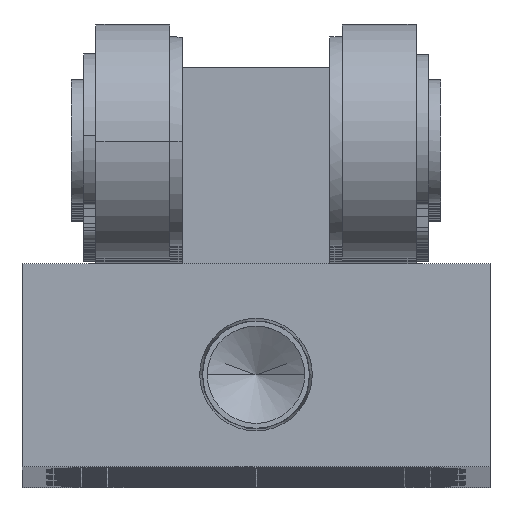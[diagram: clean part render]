
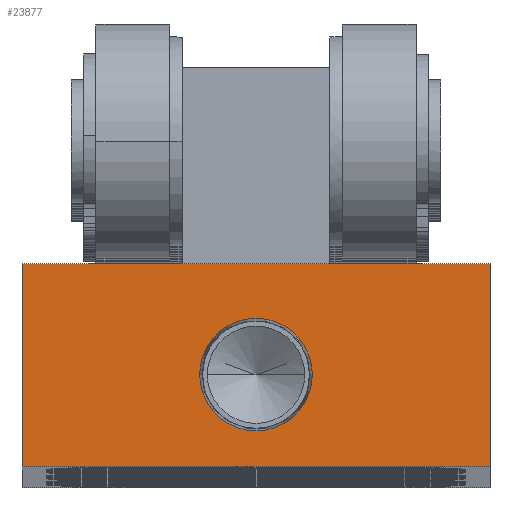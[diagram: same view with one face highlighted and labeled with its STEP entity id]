
A CAD part, top view. The second image highlights one B-rep face of the part: STEP entity #23877.
In plain terms, the highlighted planar face has unit normal (0, 0, 1).
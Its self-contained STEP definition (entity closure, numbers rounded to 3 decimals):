
#1822 = ORIENTED_EDGE ( 'NONE', *, *, #19160, .T. ) ;
#2802 = ORIENTED_EDGE ( 'NONE', *, *, #31085, .F. ) ;
#2920 = VERTEX_POINT ( 'NONE', #34217 ) ;
#3528 = EDGE_LOOP ( 'NONE', ( #5611, #2802 ) ) ;
#3871 = VERTEX_POINT ( 'NONE', #20225 ) ;
#4266 = VERTEX_POINT ( 'NONE', #38073 ) ;
#4635 = EDGE_LOOP ( 'NONE', ( #1822, #9749, #9746, #16149 ) ) ;
#4742 = VERTEX_POINT ( 'NONE', #25540 ) ;
#5206 = VECTOR ( 'NONE', #38432, 1000. ) ;
#5611 = ORIENTED_EDGE ( 'NONE', *, *, #27706, .F. ) ;
#6625 = CARTESIAN_POINT ( 'NONE',  ( -19., 16.5, 0. ) ) ;
#8352 = VERTEX_POINT ( 'NONE', #11645 ) ;
#9354 = CARTESIAN_POINT ( 'NONE',  ( 0., 7.5, 0. ) ) ;
#9746 = ORIENTED_EDGE ( 'NONE', *, *, #14457, .T. ) ;
#9749 = ORIENTED_EDGE ( 'NONE', *, *, #35486, .T. ) ;
#10341 = DIRECTION ( 'NONE',  ( 0., 0., -1. ) ) ;
#11645 = CARTESIAN_POINT ( 'NONE',  ( 19., 16.5, 0. ) ) ;
#12117 = LINE ( 'NONE', #35611, #19234 ) ;
#12450 = DIRECTION ( 'NONE',  ( 1., 0., 0. ) ) ;
#13189 = AXIS2_PLACEMENT_3D ( 'NONE', #25415, #10341, #31536 ) ;
#14420 = VECTOR ( 'NONE', #38490, 1000. ) ;
#14457 = EDGE_CURVE ( 'NONE', #4266, #4742, #21348, .T. ) ;
#16149 = ORIENTED_EDGE ( 'NONE', *, *, #31274, .T. ) ;
#16249 = FACE_OUTER_BOUND ( 'NONE', #4635, .T. ) ;
#16509 = CARTESIAN_POINT ( 'NONE',  ( 0., 7.5, 0. ) ) ;
#17107 = LINE ( 'NONE', #6625, #38452 ) ;
#17211 = CARTESIAN_POINT ( 'NONE',  ( -19., 0., 0. ) ) ;
#19160 = EDGE_CURVE ( 'NONE', #2920, #8352, #30516, .T. ) ;
#19234 = VECTOR ( 'NONE', #32676, 1000. ) ;
#19563 = DIRECTION ( 'NONE',  ( 1., 0., 0. ) ) ;
#20225 = CARTESIAN_POINT ( 'NONE',  ( -4.574, 7.5, 0. ) ) ;
#20298 = CARTESIAN_POINT ( 'NONE',  ( 19., 0., 0. ) ) ;
#21348 = LINE ( 'NONE', #17211, #5206 ) ;
#22408 = PLANE ( 'NONE',  #13189 ) ;
#22644 = VERTEX_POINT ( 'NONE', #36984 ) ;
#23877 = ADVANCED_FACE ( 'NONE', ( #25229, #16249 ), #22408, .F. ) ;
#25229 = FACE_BOUND ( 'NONE', #3528, .T. ) ;
#25415 = CARTESIAN_POINT ( 'NONE',  ( 0., 0., 0. ) ) ;
#25540 = CARTESIAN_POINT ( 'NONE',  ( -19., 0., 0. ) ) ;
#27485 = CIRCLE ( 'NONE', #29529, 4.574 ) ;
#27706 = EDGE_CURVE ( 'NONE', #22644, #3871, #27485, .T. ) ;
#29529 = AXIS2_PLACEMENT_3D ( 'NONE', #9354, #30588, #12450 ) ;
#30516 = LINE ( 'NONE', #20298, #14420 ) ;
#30588 = DIRECTION ( 'NONE',  ( 0., 0., 1. ) ) ;
#31085 = EDGE_CURVE ( 'NONE', #3871, #22644, #33013, .T. ) ;
#31274 = EDGE_CURVE ( 'NONE', #4742, #2920, #12117, .T. ) ;
#31536 = DIRECTION ( 'NONE',  ( -1., 0., 0. ) ) ;
#32676 = DIRECTION ( 'NONE',  ( 1., 0., 0. ) ) ;
#33013 = CIRCLE ( 'NONE', #34284, 4.574 ) ;
#34217 = CARTESIAN_POINT ( 'NONE',  ( 19., 0., 0. ) ) ;
#34284 = AXIS2_PLACEMENT_3D ( 'NONE', #16509, #37732, #19563 ) ;
#35486 = EDGE_CURVE ( 'NONE', #8352, #4266, #17107, .T. ) ;
#35611 = CARTESIAN_POINT ( 'NONE',  ( -19., 0., 0. ) ) ;
#36880 = DIRECTION ( 'NONE',  ( -1., 0., 0. ) ) ;
#36984 = CARTESIAN_POINT ( 'NONE',  ( 4.574, 7.5, 0. ) ) ;
#37732 = DIRECTION ( 'NONE',  ( 0., 0., 1. ) ) ;
#38073 = CARTESIAN_POINT ( 'NONE',  ( -19., 16.5, 0. ) ) ;
#38432 = DIRECTION ( 'NONE',  ( 0., -1., 0. ) ) ;
#38452 = VECTOR ( 'NONE', #36880, 1000. ) ;
#38490 = DIRECTION ( 'NONE',  ( 0., 1., 0. ) ) ;
